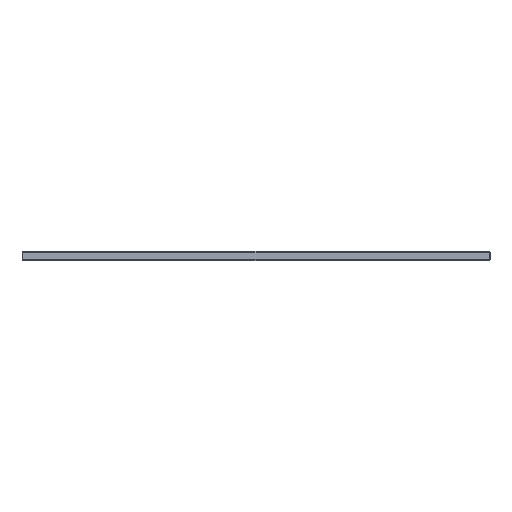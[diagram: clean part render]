
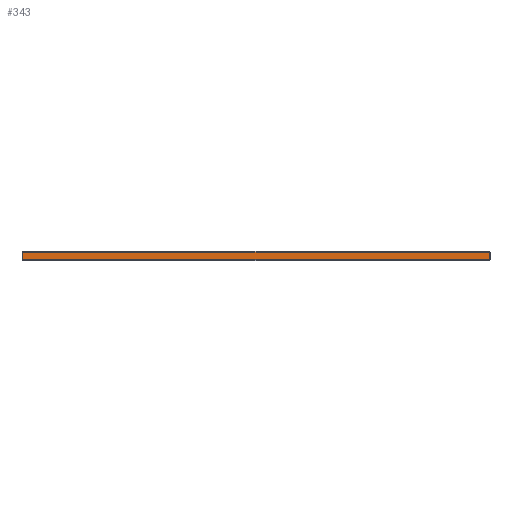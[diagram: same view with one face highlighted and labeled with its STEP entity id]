
A CAD part, top view. The second image highlights one B-rep face of the part: STEP entity #343.
In plain terms, the highlighted planar face has unit normal (0, 0, 1).
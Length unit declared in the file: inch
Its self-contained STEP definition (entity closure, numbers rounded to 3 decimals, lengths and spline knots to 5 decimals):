
#48 = ORIENTED_EDGE ( 'NONE', *, *, #68, .T. ) ;
#54 = EDGE_LOOP ( 'NONE', ( #48, #1766, #1294, #599 ) ) ;
#68 = EDGE_CURVE ( 'NONE', #184, #897, #1288, .T. ) ;
#105 = LINE ( 'NONE', #1115, #346 ) ;
#116 = VECTOR ( 'NONE', #1492, 39.37008 ) ;
#184 = VERTEX_POINT ( 'NONE', #742 ) ;
#268 = VECTOR ( 'NONE', #350, 39.37008 ) ;
#269 = VERTEX_POINT ( 'NONE', #1159 ) ;
#343 = ADVANCED_FACE ( 'NONE', ( #503 ), #1646, .F. ) ;
#346 = VECTOR ( 'NONE', #1296, 39.37008 ) ;
#350 = DIRECTION ( 'NONE',  ( 0., 1., 0. ) ) ;
#364 = LINE ( 'NONE', #482, #268 ) ;
#482 = CARTESIAN_POINT ( 'NONE',  ( 12.8875, 0.5, 8.875 ) ) ;
#503 = FACE_OUTER_BOUND ( 'NONE', #54, .T. ) ;
#585 = EDGE_CURVE ( 'NONE', #269, #747, #873, .T. ) ;
#599 = ORIENTED_EDGE ( 'NONE', *, *, #1929, .T. ) ;
#742 = CARTESIAN_POINT ( 'NONE',  ( -12.8875, 0.05, 8.875 ) ) ;
#747 = VERTEX_POINT ( 'NONE', #1700 ) ;
#873 = LINE ( 'NONE', #984, #1073 ) ;
#897 = VERTEX_POINT ( 'NONE', #1193 ) ;
#980 = AXIS2_PLACEMENT_3D ( 'NONE', #1204, #1658, #1188 ) ;
#984 = CARTESIAN_POINT ( 'NONE',  ( -12.9375, 0.45, 8.875 ) ) ;
#1073 = VECTOR ( 'NONE', #1953, 39.37008 ) ;
#1075 = EDGE_CURVE ( 'NONE', #897, #269, #364, .T. ) ;
#1115 = CARTESIAN_POINT ( 'NONE',  ( -12.8875, 0.5, 8.875 ) ) ;
#1159 = CARTESIAN_POINT ( 'NONE',  ( 12.8875, 0.45, 8.875 ) ) ;
#1188 = DIRECTION ( 'NONE',  ( -1., 0., 0. ) ) ;
#1193 = CARTESIAN_POINT ( 'NONE',  ( 12.8875, 0.05, 8.875 ) ) ;
#1204 = CARTESIAN_POINT ( 'NONE',  ( -12.9375, 0.5, 8.875 ) ) ;
#1288 = LINE ( 'NONE', #1971, #116 ) ;
#1294 = ORIENTED_EDGE ( 'NONE', *, *, #585, .T. ) ;
#1296 = DIRECTION ( 'NONE',  ( 0., -1., 0. ) ) ;
#1492 = DIRECTION ( 'NONE',  ( 1., 0., 0. ) ) ;
#1646 = PLANE ( 'NONE',  #980 ) ;
#1658 = DIRECTION ( 'NONE',  ( 0., 0., -1. ) ) ;
#1700 = CARTESIAN_POINT ( 'NONE',  ( -12.8875, 0.45, 8.875 ) ) ;
#1766 = ORIENTED_EDGE ( 'NONE', *, *, #1075, .T. ) ;
#1929 = EDGE_CURVE ( 'NONE', #747, #184, #105, .T. ) ;
#1953 = DIRECTION ( 'NONE',  ( -1., 0., 0. ) ) ;
#1971 = CARTESIAN_POINT ( 'NONE',  ( -12.9375, 0.05, 8.875 ) ) ;
